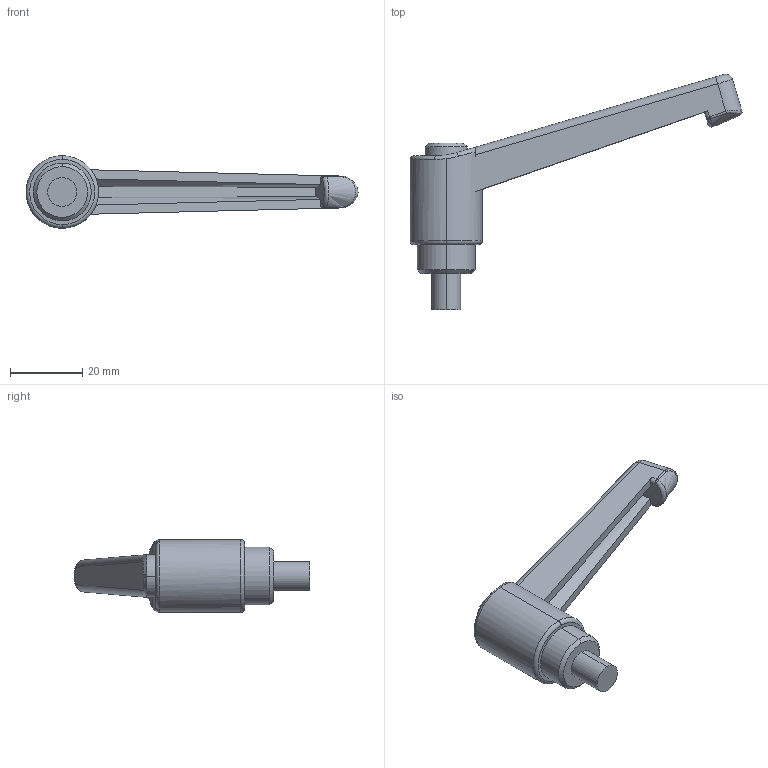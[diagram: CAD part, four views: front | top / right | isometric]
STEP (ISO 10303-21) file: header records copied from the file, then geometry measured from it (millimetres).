
FILE_DESCRIPTION (( 'STEP AP203' ), '1' );
FILE_NAME ('AS-406-78-M8.STEP', '2015-11-23T07:12:08', ( '' ), ( '' ), 'SwSTEP 2.0', 'SolidWorks 2014', '' );
FILE_SCHEMA (( 'CONFIG_CONTROL_DESIGN' ));
Length unit declared in the file: millimetre
Products named in the file (1): AS-406-78-M8
Bounding box: 91.66 x 65.01 x 20 mm (x, y, z)
Volume: 16700.9 mm3; surface area: 6224.2 mm2
Topology: 1 solids, 1 shells, 54 faces, 128 edges, 78 vertices
Faces by surface type: plane 16, cylinder 15, bspline 11, torus 4, cone 4, sphere 4
Entity records: 2109 total; most frequent: CARTESIAN_POINT 883, ORIENTED_EDGE 256, DIRECTION 225, EDGE_CURVE 128, AXIS2_PLACEMENT_3D 94, VERTEX_POINT 78, EDGE_LOOP 56, FACE_OUTER_BOUND 54
